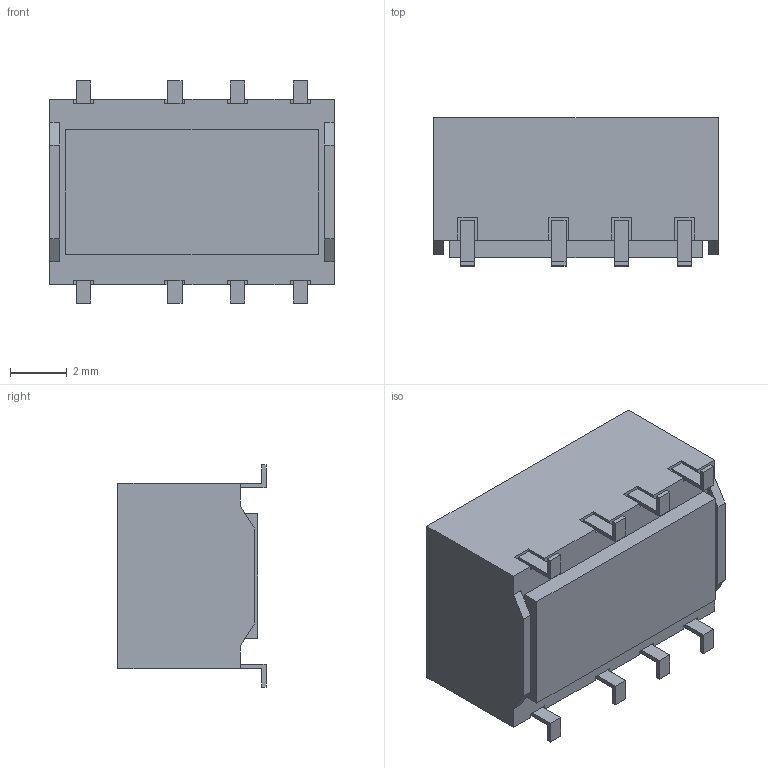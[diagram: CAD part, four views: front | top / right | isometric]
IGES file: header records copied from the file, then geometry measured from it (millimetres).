
Start section: OSMC1.0    IGES FILE using analytic representation for surfaces
Global section: file name: C:\OMRON\G6K_2F_Y.igs; native system: SolidWorks 2001Plus by SolidWorks Corporation; preprocessor: Version 5.3; author: sakane; date: 140625.152504; units: millimetre
Bounding box: 10 x 5.2 x 7.8 mm (x, y, z)
Surface area: 318.4 mm2 (no closed solid volume)
Topology: 0 solids, 0 shells, 128 faces, 764 edges, 762 vertices
Faces by surface type: bspline 123, revolution 5
